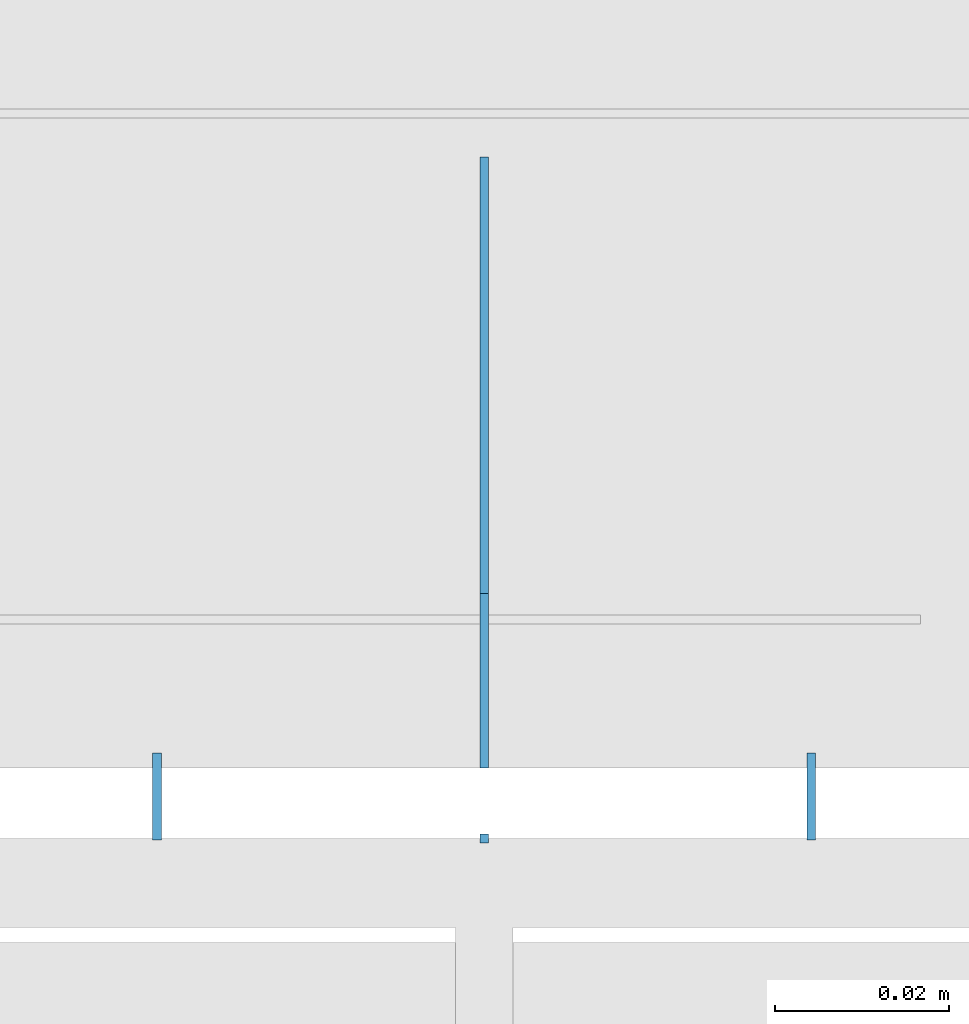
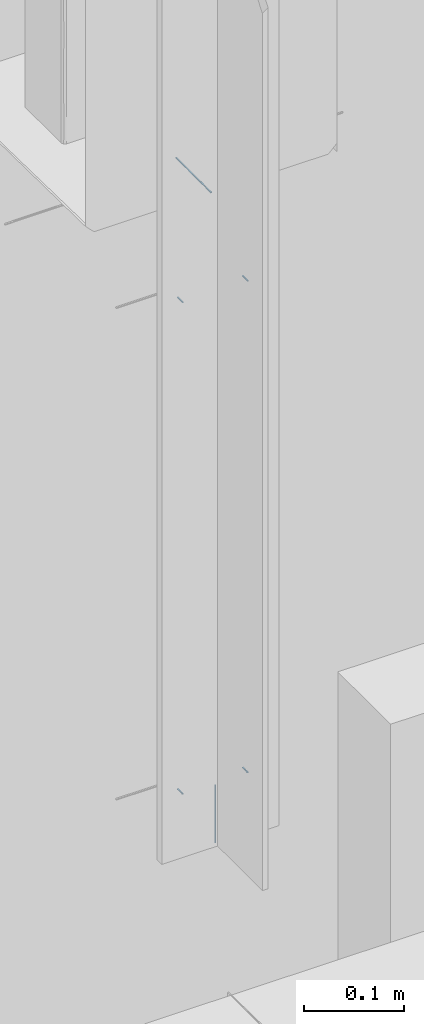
# One storey, part 84 of 186: 7 beams.
"""IFC4X3_ADD2 building model written with IfcOpenShell, lengths in millimetres."""

from ifc_helpers import new_model, si_unit, direction, frame, frame_2d, origin_with_axes, place, context, subcontext, project, spatial, rectangle, extrude, material, element, save


model = new_model("IFC4X3_ADD2")

# Units and contexts
model_context = context("Model", 3, precision=1e-05, world=origin_with_axes(), true_north=direction((0.0, 1.0)))
body_context = subcontext(model_context, "Body", "Model", "MODEL_VIEW")
ifc_project = project(units=[si_unit("LENGTHUNIT", "METRE", prefix="MILLI"), si_unit("AREAUNIT", "SQUARE_METRE"), si_unit("VOLUMEUNIT", "CUBIC_METRE"), si_unit("PLANEANGLEUNIT", "RADIAN"), si_unit("TIMEUNIT", "SECOND"), si_unit("MASSUNIT", "GRAM")], contexts=[model_context])

# Site, building, storey
site_placement = place(None, origin_with_axes())
site = spatial("IfcSite", under=ifc_project, at=site_placement, Name="Site", CompositionType="ELEMENT")
building_placement = place(site_placement, origin_with_axes())
building = spatial("IfcBuilding", under=site, at=building_placement, Name="IFC Building Story")
storey_placement = place(building_placement, frame((0.0, 0.0, 4370.0), z_axis=(0.0, 0.0, 1.0), x_axis=(1.0, 0.0, 0.0)))
storey = spatial("IfcBuildingStorey", under=building, at=storey_placement, Name="ETAGE 10 (1)", Elevation=4370.0)

# Beams
ifc_material_1 = material(Name="STEEL/Accessory_invisible")
for number, where, z_axis, x_axis, name in (
    (1, (39928.189, 16.7000000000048, 3389.5), (1.0, 0.0, 0.0), (0.0, 0.0, -1.0), "MP21"),
    (2, (39928.189, 16.7000000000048, 3989.5), (1.0, 0.0, 0.0), (0.0, 0.0, -1.0), "MP21"),
    (3, (40003.189, 16.7000000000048, 3989.5), (1.0, 0.0, 0.0), (0.0, 0.0, -1.0), "MP21"),
    (4, (40003.189, 16.7000000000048, 3389.5), (1.0, 0.0, 0.0), (0.0, 0.0, -1.0), "MP21"),
):
    element("IfcBeam", number, at=place(storey_placement, frame(where, z_axis=z_axis, x_axis=x_axis)), inside=storey, material=ifc_material_1, Name=name, ObjectType="1*1 9", context=body_context, shape_type="SweptSolid", body=[
        extrude(rectangle(XDim=0.9999999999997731, YDim=10.0, at=frame_2d((0.0, 5.95523630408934e-12), x_axis=(1.0, 0.0))), origin_with_axes(), (0.0, 0.0, 1.0), 1.0),
    ])
beam_1_placement = place(storey_placement, frame((39965.689, 65.00024835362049, 4105.40274340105), z_axis=(1.0, 0.0, 0.0), x_axis=(0.0, 0.0, -1.0)))
element("IfcBeam", 5, at=beam_1_placement, inside=storey, material=ifc_material_1, Name="ZW1", ObjectType="1*1 14", context=body_context, shape_type="SweptSolid", body=[
    extrude(rectangle(XDim=0.9999999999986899, YDim=50.0, at=frame_2d((0.0, 5.95523630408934e-12), x_axis=(1.0, 0.0))), origin_with_axes(), (0.0, 0.0, 1.0), 1.0),
])
ifc_material_2 = material(Name="STEEL/Accessory_invisible 261")
beam_2_placement = place(storey_placement, frame((39965.689, 30.0002483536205, 4105.40274340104), z_axis=(1.0, 0.0, 0.0), x_axis=(0.0, 0.0, -1.0)))
element("IfcBeam", 6, at=beam_2_placement, inside=storey, material=ifc_material_2, Name="PR10", ObjectType="1*1 13", context=body_context, shape_type="SweptSolid", body=[
    extrude(rectangle(XDim=0.9999999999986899, YDim=20.0, at=frame_2d((0.0, 5.95523630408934e-12), x_axis=(1.0, 0.0))), origin_with_axes(), (0.0, 0.0, 1.0), 1.0),
])
beam_3_placement = place(storey_placement, frame((39966.689, 11.8999999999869, 3352.0), z_axis=(-1.0, 0.0, 0.0), x_axis=(0.0, 0.0, 1.0)))
element("IfcBeam", 7, at=beam_3_placement, inside=storey, material=ifc_material_1, Name="ZW1", ObjectType="1*1 10", context=body_context, shape_type="SweptSolid", body=[
    extrude(rectangle(XDim=70.0000000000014, YDim=1.0, at=frame_2d((0.0, 5.95523630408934e-12), x_axis=(1.0, 0.0))), origin_with_axes(), (0.0, 0.0, 1.0), 1.0),
])

save(model, "model.ifc")
